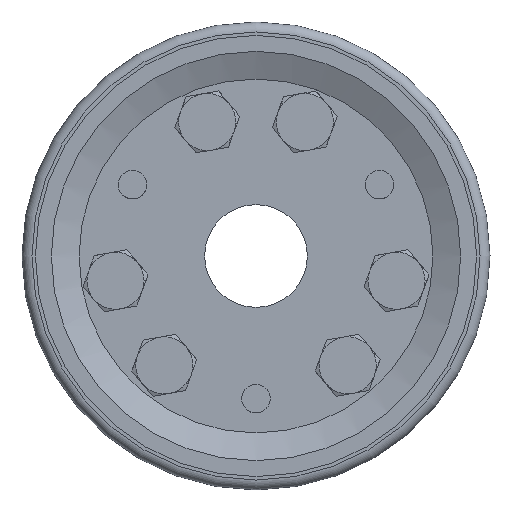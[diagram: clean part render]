
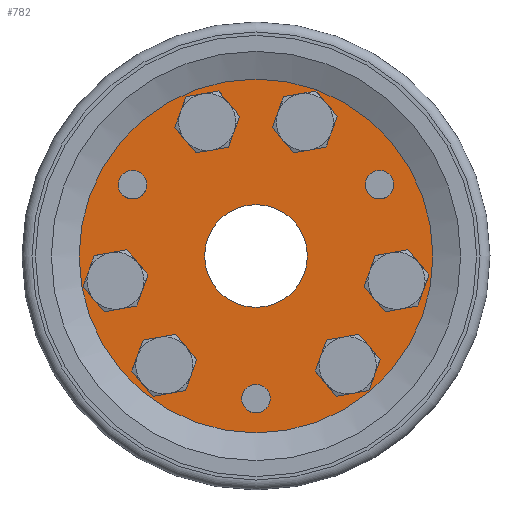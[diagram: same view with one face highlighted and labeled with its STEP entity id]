
A CAD part, left-side view. The second image highlights one B-rep face of the part: STEP entity #782.
In plain terms, the highlighted planar face has unit normal (-1, 0, 0).
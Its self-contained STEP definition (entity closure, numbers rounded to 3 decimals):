
#782 = ADVANCED_FACE( '', ( #1815, #1816, #1817, #1818, #1819, #1820, #1821, #1822, #1823, #1824, #1825 ), #1826, .T. );
#1815 = FACE_BOUND( '', #3064, .T. );
#1816 = FACE_BOUND( '', #3065, .T. );
#1817 = FACE_BOUND( '', #3066, .T. );
#1818 = FACE_OUTER_BOUND( '', #3067, .T. );
#1819 = FACE_BOUND( '', #3068, .T. );
#1820 = FACE_BOUND( '', #3069, .T. );
#1821 = FACE_BOUND( '', #3070, .T. );
#1822 = FACE_BOUND( '', #3071, .T. );
#1823 = FACE_BOUND( '', #3072, .T. );
#1824 = FACE_BOUND( '', #3073, .T. );
#1825 = FACE_BOUND( '', #3074, .T. );
#1826 = PLANE( '', #3075 );
#3064 = EDGE_LOOP( '', ( #5155 ) );
#3065 = EDGE_LOOP( '', ( #5156 ) );
#3066 = EDGE_LOOP( '', ( #5157 ) );
#3067 = EDGE_LOOP( '', ( #5158 ) );
#3068 = EDGE_LOOP( '', ( #5159 ) );
#3069 = EDGE_LOOP( '', ( #5160 ) );
#3070 = EDGE_LOOP( '', ( #5161 ) );
#3071 = EDGE_LOOP( '', ( #5162 ) );
#3072 = EDGE_LOOP( '', ( #5163 ) );
#3073 = EDGE_LOOP( '', ( #5164 ) );
#3074 = EDGE_LOOP( '', ( #5165 ) );
#3075 = AXIS2_PLACEMENT_3D( '', #5166, #5167, #5168 );
#5155 = ORIENTED_EDGE( '', *, *, #6978, .T. );
#5156 = ORIENTED_EDGE( '', *, *, #6979, .T. );
#5157 = ORIENTED_EDGE( '', *, *, #6980, .T. );
#5158 = ORIENTED_EDGE( '', *, *, #6870, .T. );
#5159 = ORIENTED_EDGE( '', *, *, #6981, .T. );
#5160 = ORIENTED_EDGE( '', *, *, #6897, .T. );
#5161 = ORIENTED_EDGE( '', *, *, #6946, .T. );
#5162 = ORIENTED_EDGE( '', *, *, #6764, .T. );
#5163 = ORIENTED_EDGE( '', *, *, #6452, .T. );
#5164 = ORIENTED_EDGE( '', *, *, #6566, .T. );
#5165 = ORIENTED_EDGE( '', *, *, #6667, .T. );
#5166 = CARTESIAN_POINT( '', ( -30., -2.907, 7.987 ) );
#5167 = DIRECTION( '', ( -1., 0., 0. ) );
#5168 = DIRECTION( '', ( 0., -0.342, 0.94 ) );
#6452 = EDGE_CURVE( '', #7589, #7589, #7590, .F. );
#6566 = EDGE_CURVE( '', #7767, #7767, #7768, .F. );
#6667 = EDGE_CURVE( '', #7934, #7934, #7935, .F. );
#6764 = EDGE_CURVE( '', #8074, #8074, #8075, .F. );
#6870 = EDGE_CURVE( '', #8222, #8222, #8223, .T. );
#6897 = EDGE_CURVE( '', #8262, #8262, #8263, .F. );
#6946 = EDGE_CURVE( '', #8327, #8327, #8328, .F. );
#6978 = EDGE_CURVE( '', #8369, #8369, #8370, .T. );
#6979 = EDGE_CURVE( '', #8371, #8371, #8372, .T. );
#6980 = EDGE_CURVE( '', #8373, #8373, #8374, .T. );
#6981 = EDGE_CURVE( '', #8375, #8375, #8376, .F. );
#7589 = VERTEX_POINT( '', #9241 );
#7590 = CIRCLE( '', #9242, 4.35 );
#7767 = VERTEX_POINT( '', #9518 );
#7768 = CIRCLE( '', #9519, 4.35 );
#7934 = VERTEX_POINT( '', #9748 );
#7935 = CIRCLE( '', #9749, 9. );
#8074 = VERTEX_POINT( '', #10070 );
#8075 = CIRCLE( '', #10071, 4.35 );
#8222 = VERTEX_POINT( '', #10348 );
#8223 = CIRCLE( '', #10349, 31. );
#8262 = VERTEX_POINT( '', #10411 );
#8263 = CIRCLE( '', #10412, 4.35 );
#8327 = VERTEX_POINT( '', #10555 );
#8328 = CIRCLE( '', #10556, 4.35 );
#8369 = VERTEX_POINT( '', #10609 );
#8370 = CIRCLE( '', #10610, 2.5 );
#8371 = VERTEX_POINT( '', #10611 );
#8372 = CIRCLE( '', #10612, 2.5 );
#8373 = VERTEX_POINT( '', #10613 );
#8374 = CIRCLE( '', #10614, 2.5 );
#8375 = VERTEX_POINT( '', #10615 );
#8376 = CIRCLE( '', #10616, 4.35 );
#9241 = CARTESIAN_POINT( '', ( -30., 20.27, -4.341 ) );
#9242 = AXIS2_PLACEMENT_3D( '', #11344, #11345, #11346 );
#9518 = CARTESIAN_POINT( '', ( -30., 4.201, 23.492 ) );
#9519 = AXIS2_PLACEMENT_3D( '', #11523, #11524, #11525 );
#9748 = CARTESIAN_POINT( '', ( -30., -9., 0. ) );
#9749 = AXIS2_PLACEMENT_3D( '', #11661, #11662, #11663 );
#10070 = CARTESIAN_POINT( '', ( -30., 11.72, -19.151 ) );
#10071 = AXIS2_PLACEMENT_3D( '', #11749, #11750, #11751 );
#10348 = CARTESIAN_POINT( '', ( -30., -10.603, 29.13 ) );
#10349 = AXIS2_PLACEMENT_3D( '', #11859, #11860, #11861 );
#10411 = CARTESIAN_POINT( '', ( -30., -28.97, -4.341 ) );
#10412 = AXIS2_PLACEMENT_3D( '', #11885, #11886, #11887 );
#10555 = CARTESIAN_POINT( '', ( -30., -20.42, -19.151 ) );
#10556 = AXIS2_PLACEMENT_3D( '', #11946, #11947, #11948 );
#10609 = CARTESIAN_POINT( '', ( -30., -19.301, 13.355 ) );
#10610 = AXIS2_PLACEMENT_3D( '', #11985, #11986, #11987 );
#10611 = CARTESIAN_POINT( '', ( -30., 2.349, -24.145 ) );
#10612 = AXIS2_PLACEMENT_3D( '', #11988, #11989, #11990 );
#10613 = CARTESIAN_POINT( '', ( -30., 24., 13.355 ) );
#10614 = AXIS2_PLACEMENT_3D( '', #11991, #11992, #11993 );
#10615 = CARTESIAN_POINT( '', ( -30., -12.901, 23.492 ) );
#10616 = AXIS2_PLACEMENT_3D( '', #11994, #11995, #11996 );
#11344 = CARTESIAN_POINT( '', ( -30., 24.62, -4.341 ) );
#11345 = DIRECTION( '', ( -1., 0., 0. ) );
#11346 = DIRECTION( '', ( 0., -1., 0. ) );
#11523 = CARTESIAN_POINT( '', ( -30., 8.551, 23.492 ) );
#11524 = DIRECTION( '', ( -1., 0., 0. ) );
#11525 = DIRECTION( '', ( 0., -1., 0. ) );
#11661 = CARTESIAN_POINT( '', ( -30., 0., 0. ) );
#11662 = DIRECTION( '', ( -1., 0., 0. ) );
#11663 = DIRECTION( '', ( 0., -1., 0. ) );
#11749 = CARTESIAN_POINT( '', ( -30., 16.07, -19.151 ) );
#11750 = DIRECTION( '', ( -1., 0., 0. ) );
#11751 = DIRECTION( '', ( 0., -1., 0. ) );
#11859 = CARTESIAN_POINT( '', ( -30., 0., 0. ) );
#11860 = DIRECTION( '', ( -1., 0., 0. ) );
#11861 = DIRECTION( '', ( 0., -0.342, 0.94 ) );
#11885 = CARTESIAN_POINT( '', ( -30., -24.62, -4.341 ) );
#11886 = DIRECTION( '', ( -1., 0., 0. ) );
#11887 = DIRECTION( '', ( 0., -1., 0. ) );
#11946 = CARTESIAN_POINT( '', ( -30., -16.07, -19.151 ) );
#11947 = DIRECTION( '', ( -1., 0., 0. ) );
#11948 = DIRECTION( '', ( 0., -1., 0. ) );
#11985 = CARTESIAN_POINT( '', ( -30., -21.651, 12.5 ) );
#11986 = DIRECTION( '', ( 1., 0., 0. ) );
#11987 = DIRECTION( '', ( 0., 0.94, 0.342 ) );
#11988 = CARTESIAN_POINT( '', ( -30., 0., -25. ) );
#11989 = DIRECTION( '', ( 1., 0., 0. ) );
#11990 = DIRECTION( '', ( 0., 0.94, 0.342 ) );
#11991 = CARTESIAN_POINT( '', ( -30., 21.651, 12.5 ) );
#11992 = DIRECTION( '', ( 1., 0., 0. ) );
#11993 = DIRECTION( '', ( 0., 0.94, 0.342 ) );
#11994 = CARTESIAN_POINT( '', ( -30., -8.551, 23.492 ) );
#11995 = DIRECTION( '', ( -1., 0., 0. ) );
#11996 = DIRECTION( '', ( 0., -1., 0. ) );
